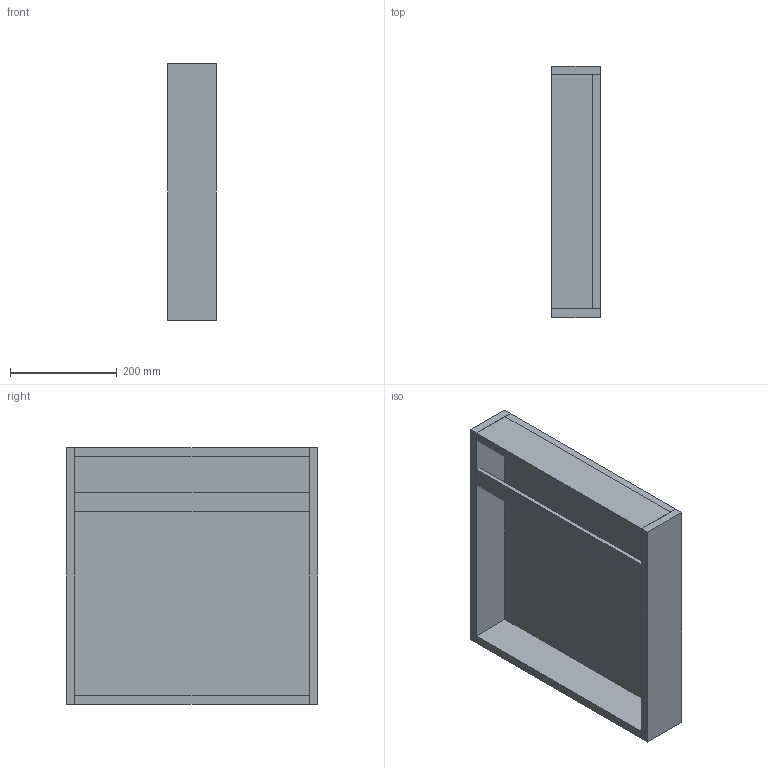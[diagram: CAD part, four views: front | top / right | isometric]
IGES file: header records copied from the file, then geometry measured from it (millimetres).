
Start section: Data from Parasolid IGES Translator 19.0.9, Copyright(c) 2006 Siemens PL M Software. All Rights Reserved.
Global section: file name: noorth-SI-H 48 D 47 W 9_8509.igs; native system: By Siemens PLM Incorporated; preprocessor: XPlus GENERIC/IGES 19.0.9; author: Noname; organization: Noname; date: 20200601.111519; units: metre
Bounding box: 90 x 469.86 x 480.8 mm (x, y, z)
Volume: 5520624.8 mm3; surface area: 860938.6 mm2
Topology: 6 solids, 6 shells, 36 faces, 72 edges, 48 vertices
Faces by surface type: plane 36
